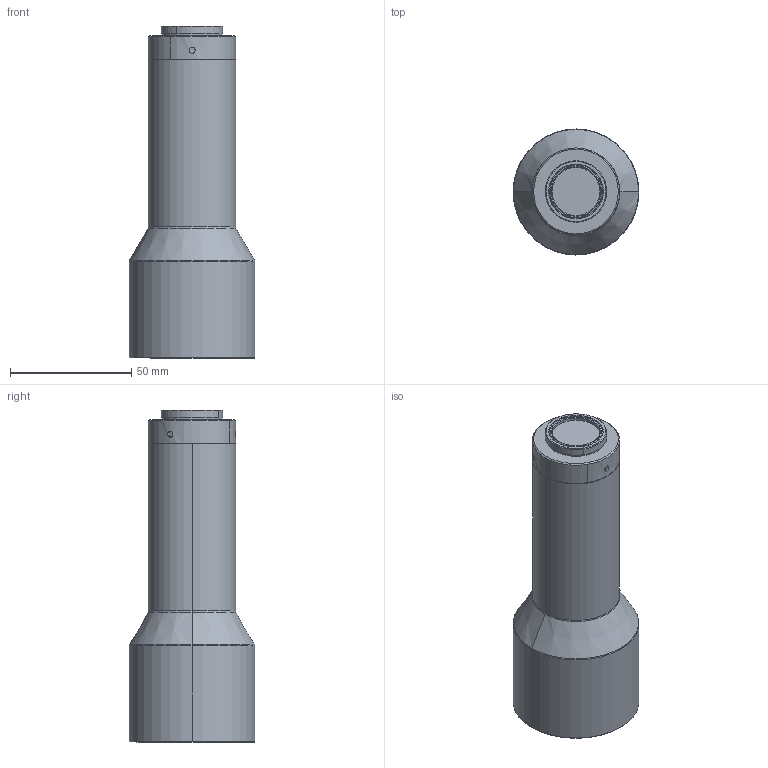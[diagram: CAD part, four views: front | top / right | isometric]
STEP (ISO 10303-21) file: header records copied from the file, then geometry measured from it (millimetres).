
FILE_DESCRIPTION (( 'STEP AP203' ), '1' );
FILE_NAME ('WWK05-110-111V3.STEP', '2023-03-23T08:52:33', ( '' ), ( '' ), 'SwSTEP 2.0', 'SolidWorks 2017', '' );
FILE_SCHEMA (( 'CONFIG_CONTROL_DESIGN' ));
Length unit declared in the file: millimetre
Products named in the file (1): WWK05-110-111V3
Bounding box: 52 x 52 x 137.17 mm (x, y, z)
Volume: 186142.7 mm3; surface area: 21493.2 mm2
Topology: 1 solids, 1 shells, 55 faces, 110 edges, 66 vertices
Faces by surface type: cylinder 25, cone 18, plane 8, torus 4
Entity records: 1707 total; most frequent: CARTESIAN_POINT 460, DIRECTION 268, ORIENTED_EDGE 220, AXIS2_PLACEMENT_3D 114, EDGE_CURVE 110, VERTEX_POINT 66, EDGE_LOOP 64, CIRCLE 58
